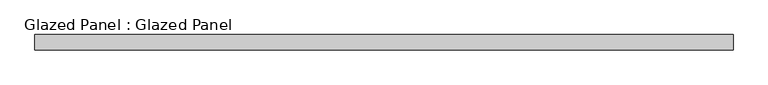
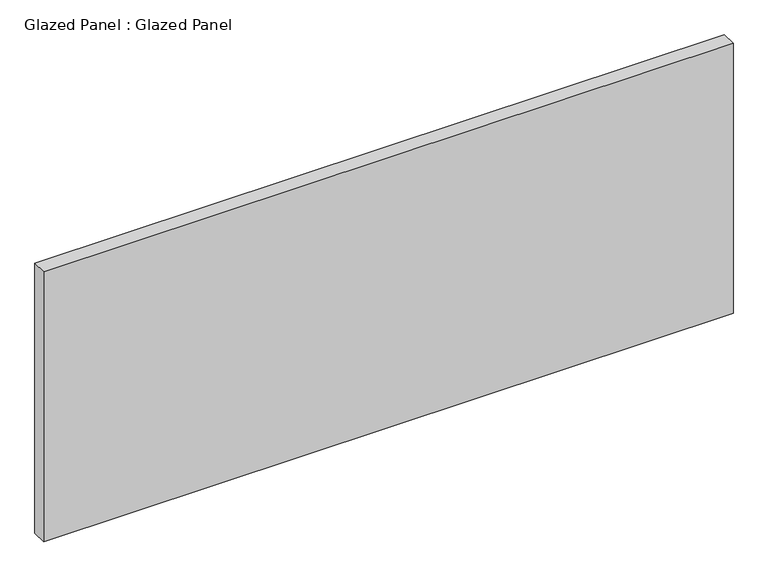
"""IFC4 building model written with IfcOpenShell, lengths in millimetres: plate geometry, Glazed Panel : Glazed Panel."""

from ifc_helpers import new_model, si_unit, origin, origin_with_axes, place, context, project, spatial, polyline, outline, extrude, source, transform, mapped, element, save


def glazed_panel_glazed_panel_1c80ef19(model_context):
    return source(origin(), model_context, "Body", "SweptSolid", [
        extrude(outline(polyline([(584.9807766, 38.1), (-584.9807766, 38.1), (-584.9807766, 63.5), (584.9807766, 63.5), (584.9807766, 38.1)])), origin_with_axes(), (0.0, 0.0, 1.0), 484.0912587),
    ])


if __name__ == "__main__":
    model = new_model("IFC4")
    model_context = context("Model", 3, world=origin())
    ifc_project = project(units=[si_unit("LENGTHUNIT", "METRE", prefix="MILLI")], contexts=[model_context])
    site = spatial("IfcSite", under=ifc_project)
    building = spatial("IfcBuilding", under=site)
    placement = place(None, origin())
    glazed_panel_glazed_panel_shape = glazed_panel_glazed_panel_1c80ef19(model_context)
    element("IfcPlate", 1, ObjectType="Glazed Panel : Glazed Panel", at=placement, inside=building, context=model_context, shape_type="MappedRepresentation", body=[
        mapped(glazed_panel_glazed_panel_shape, transform((0.0, 0.0, 0.0), x_axis=(1.0, 0.0, 0.0), y_axis=(0.0, 1.0, 0.0), z_axis=(0.0, 0.0, 1.0))),
    ])
    save(model, "model.ifc")
